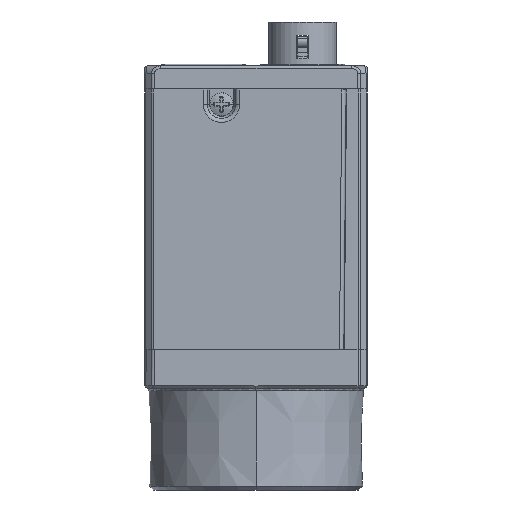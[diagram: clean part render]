
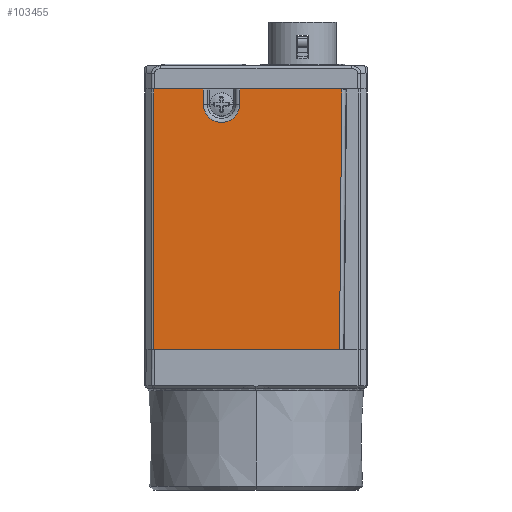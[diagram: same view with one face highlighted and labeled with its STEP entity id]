
A CAD part, left-side view. The second image highlights one B-rep face of the part: STEP entity #103455.
In plain terms, the highlighted planar face has unit normal (-1, 0, 0).
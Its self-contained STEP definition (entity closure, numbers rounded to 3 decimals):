
#101436=DIRECTION('',(0.,0.,1.));
#101437=VECTOR('',#101436,34.);
#101438=CARTESIAN_POINT('',(-14.5,13.293,0.));
#101439=LINE('',#101438,#101437);
#101454=DIRECTION('',(0.,0.,1.));
#101455=VECTOR('',#101454,2.);
#101456=CARTESIAN_POINT('',(-14.5,6.858,32.));
#101457=LINE('',#101456,#101455);
#101458=CARTESIAN_POINT('',(-14.5,4.5,32.));
#101459=DIRECTION('',(-1.,0.,0.));
#101460=DIRECTION('',(0.,1.,0.));
#101461=AXIS2_PLACEMENT_3D('',#101458,#101459,#101460);
#101463=DIRECTION('',(0.,0.,-1.));
#101464=VECTOR('',#101463,2.);
#101465=CARTESIAN_POINT('',(-14.5,2.142,34.));
#101466=LINE('',#101465,#101464);
#101467=DIRECTION('',(0.,-0.009,1.));
#101468=VECTOR('',#101467,34.001);
#101469=CARTESIAN_POINT('',(-14.5,-10.88,0.));
#101470=LINE('',#101469,#101468);
#101643=DIRECTION('',(0.,-1.,0.));
#101644=VECTOR('',#101643,13.318);
#101645=CARTESIAN_POINT('',(-14.5,2.142,34.));
#101646=LINE('',#101645,#101644);
#101693=DIRECTION('',(0.,-1.,0.));
#101694=VECTOR('',#101693,6.435);
#101695=CARTESIAN_POINT('',(-14.5,13.293,34.));
#101696=LINE('',#101695,#101694);
#102343=DIRECTION('',(0.,-1.,0.));
#102344=VECTOR('',#102343,24.173);
#102345=CARTESIAN_POINT('',(-14.5,13.293,0.));
#102346=LINE('',#102345,#102344);
#102530=CARTESIAN_POINT('',(-14.5,13.293,0.));
#102531=CARTESIAN_POINT('',(-14.5,13.293,34.));
#102532=VERTEX_POINT('',#102530);
#102533=VERTEX_POINT('',#102531);
#102618=CARTESIAN_POINT('',(-14.5,-11.177,34.));
#102620=VERTEX_POINT('',#102618);
#102646=CARTESIAN_POINT('',(-14.5,-10.88,0.));
#102647=VERTEX_POINT('',#102646);
#102746=CARTESIAN_POINT('',(-14.5,2.142,34.));
#102747=CARTESIAN_POINT('',(-14.5,2.142,32.));
#102748=VERTEX_POINT('',#102746);
#102749=VERTEX_POINT('',#102747);
#102750=CARTESIAN_POINT('',(-14.5,6.858,32.));
#102751=VERTEX_POINT('',#102750);
#102752=CARTESIAN_POINT('',(-14.5,6.858,34.));
#102753=VERTEX_POINT('',#102752);
#103433=CARTESIAN_POINT('',(-14.5,13.5,0.));
#103434=DIRECTION('',(-1.,0.,0.));
#103435=DIRECTION('',(0.,-1.,0.));
#103436=AXIS2_PLACEMENT_3D('',#103433,#103434,#103435);
#103437=PLANE('',#103436);
#103439=ORIENTED_EDGE('',*,*,#103438,.F.);
#103441=ORIENTED_EDGE('',*,*,#103440,.F.);
#103442=ORIENTED_EDGE('',*,*,#103424,.T.);
#103444=ORIENTED_EDGE('',*,*,#103443,.T.);
#103446=ORIENTED_EDGE('',*,*,#103445,.F.);
#103448=ORIENTED_EDGE('',*,*,#103447,.T.);
#103450=ORIENTED_EDGE('',*,*,#103449,.F.);
#103452=ORIENTED_EDGE('',*,*,#103451,.T.);
#103453=EDGE_LOOP('',(#103439,#103441,#103442,#103444,#103446,#103448,#103450,
#103452));
#103454=FACE_OUTER_BOUND('',#103453,.F.);
#103455=ADVANCED_FACE('',(#103454),#103437,.T.);
#101462=CIRCLE('',#101461,2.358);
#103424=EDGE_CURVE('',#102532,#102533,#101439,.T.);
#103438=EDGE_CURVE('',#102647,#102620,#101470,.T.);
#103440=EDGE_CURVE('',#102532,#102647,#102346,.T.);
#103443=EDGE_CURVE('',#102533,#102753,#101696,.T.);
#103445=EDGE_CURVE('',#102751,#102753,#101457,.T.);
#103447=EDGE_CURVE('',#102751,#102749,#101462,.T.);
#103449=EDGE_CURVE('',#102748,#102749,#101466,.T.);
#103451=EDGE_CURVE('',#102748,#102620,#101646,.T.);
